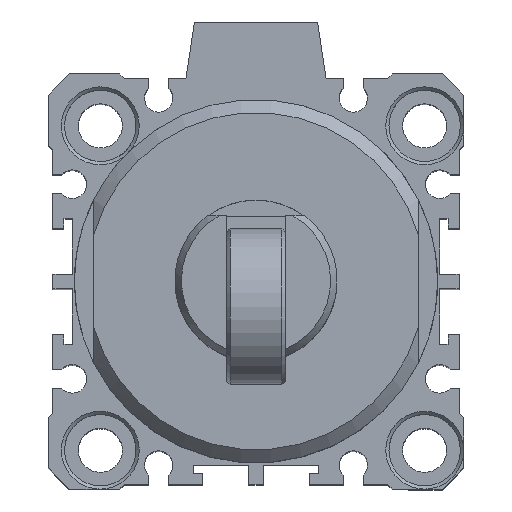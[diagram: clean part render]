
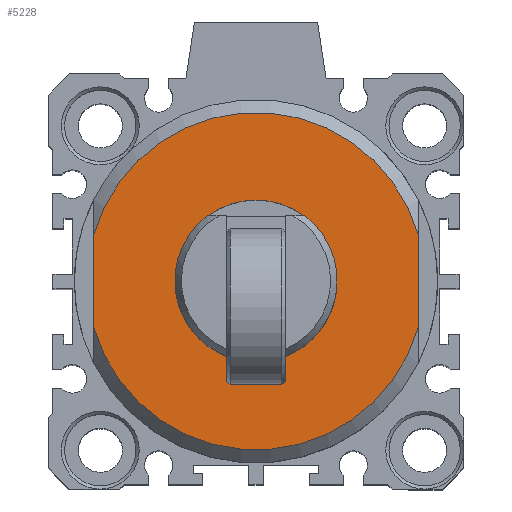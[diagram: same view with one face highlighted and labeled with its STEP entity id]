
A CAD part, top view. The second image highlights one B-rep face of the part: STEP entity #5228.
In plain terms, the highlighted planar face has unit normal (0, 0, 1).
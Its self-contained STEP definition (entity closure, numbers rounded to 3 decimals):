
#336=CARTESIAN_POINT('',(-14.557,11.794,107.));
#337=VERTEX_POINT('',#336);
#344=CARTESIAN_POINT('',(0.443,11.794,107.));
#345=VERTEX_POINT('',#344);
#346=CARTESIAN_POINT('',(-7.057,1.794,107.));
#347=DIRECTION('',(0.0,0.0,-1.0));
#348=DIRECTION('',(0.0,1.0,0.0));
#349=AXIS2_PLACEMENT_3D('',#346,#347,#348);
#350=CIRCLE('',#349,12.5);
#351=EDGE_CURVE('',#345,#337,#350,.T.);
#5177=CARTESIAN_POINT('',(-7.057,22.044,107.));
#5178=DIRECTION('',(0.0,0.0,1.0));
#5179=DIRECTION('',(1.0,0.0,0.0));
#5180=AXIS2_PLACEMENT_3D('',#5177,#5178,#5179);
#5181=PLANE('',#5180);
#5182=CARTESIAN_POINT('',(-32.057,8.936,107.));
#5183=VERTEX_POINT('',#5182);
#5184=CARTESIAN_POINT('',(17.943,8.936,107.));
#5185=VERTEX_POINT('',#5184);
#5186=CARTESIAN_POINT('',(-7.057,1.794,107.));
#5187=DIRECTION('',(0.0,0.0,-1.0));
#5188=DIRECTION('',(0.0,1.0,0.0));
#5189=AXIS2_PLACEMENT_3D('',#5186,#5187,#5188);
#5190=CIRCLE('',#5189,26.);
#5191=EDGE_CURVE('',#5183,#5185,#5190,.T.);
#5192=ORIENTED_EDGE('',*,*,#5191,.F.);
#5193=CARTESIAN_POINT('',(-32.057,-5.347,107.));
#5194=VERTEX_POINT('',#5193);
#5195=CARTESIAN_POINT('',(-32.057,8.936,107.));
#5196=DIRECTION('',(0.0,-1.0,0.0));
#5197=VECTOR('',#5196,14.283);
#5198=LINE('',#5195,#5197);
#5199=EDGE_CURVE('',#5183,#5194,#5198,.T.);
#5200=ORIENTED_EDGE('',*,*,#5199,.T.);
#5201=CARTESIAN_POINT('',(17.943,-5.347,107.));
#5202=VERTEX_POINT('',#5201);
#5203=CARTESIAN_POINT('',(-7.057,1.794,107.));
#5204=DIRECTION('',(0.0,0.0,-1.0));
#5205=DIRECTION('',(0.0,-1.0,0.0));
#5206=AXIS2_PLACEMENT_3D('',#5203,#5204,#5205);
#5207=CIRCLE('',#5206,26.);
#5208=EDGE_CURVE('',#5202,#5194,#5207,.T.);
#5209=ORIENTED_EDGE('',*,*,#5208,.F.);
#5210=CARTESIAN_POINT('',(17.943,-5.347,107.));
#5211=DIRECTION('',(0.0,1.0,0.0));
#5212=VECTOR('',#5211,14.283);
#5213=LINE('',#5210,#5212);
#5214=EDGE_CURVE('',#5202,#5185,#5213,.T.);
#5215=ORIENTED_EDGE('',*,*,#5214,.T.);
#5216=EDGE_LOOP('',(#5192,#5200,#5209,#5215));
#5217=FACE_OUTER_BOUND('',#5216,.T.);
#5218=CARTESIAN_POINT('',(-7.057,1.794,107.));
#5219=DIRECTION('',(0.0,0.0,-1.0));
#5220=DIRECTION('',(0.0,1.0,0.0));
#5221=AXIS2_PLACEMENT_3D('',#5218,#5219,#5220);
#5222=CIRCLE('',#5221,12.5);
#5223=EDGE_CURVE('',#337,#345,#5222,.T.);
#5224=ORIENTED_EDGE('',*,*,#5223,.T.);
#5225=ORIENTED_EDGE('',*,*,#351,.T.);
#5226=EDGE_LOOP('',(#5224,#5225));
#5227=FACE_BOUND('',#5226,.T.);
#5228=ADVANCED_FACE('',(#5217,#5227),#5181,.T.);
